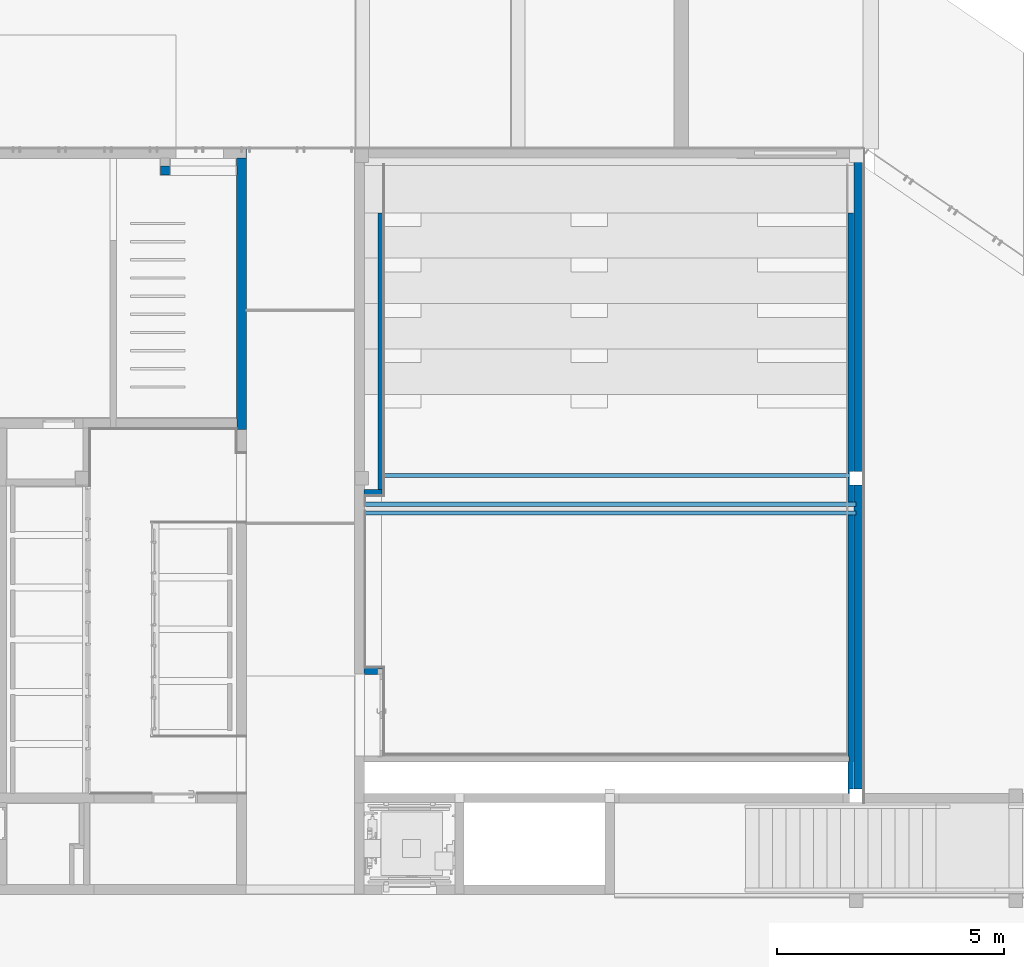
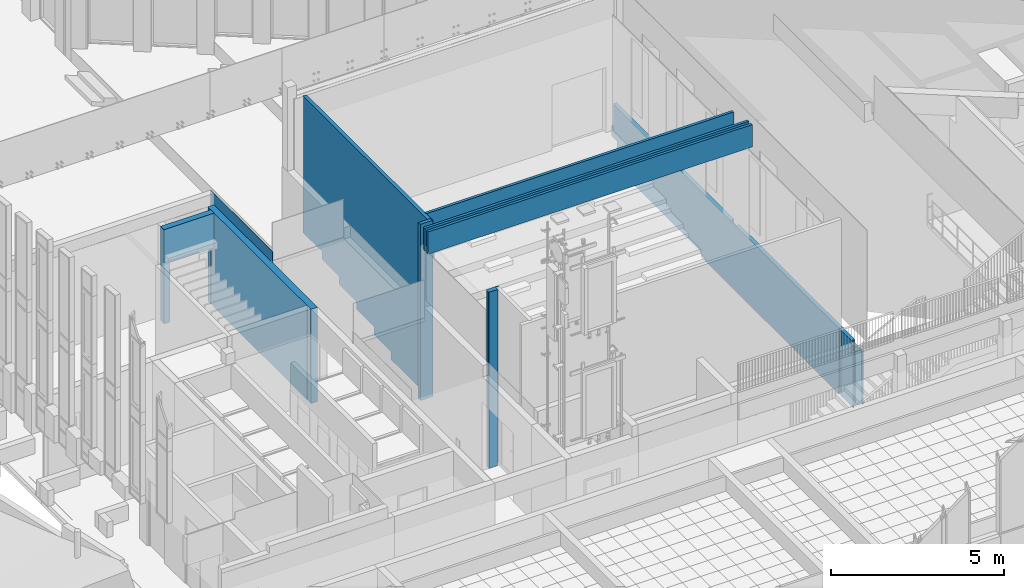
# One storey, part 122 of 246: 9 walls, 2 openings.
"""IFC2X3 building model written with IfcOpenShell, lengths in millimetres."""

from ifc_helpers import new_model, entity, si_unit, converted_unit, derived_unit, money_unit, direction, frame, origin_with_axes, place, context, subcontext, project, spatial, faceted_brep, material, material_list, type_object, element, save


model = new_model("IFC2X3")

# Units and contexts
model_context = context("Model", 3, precision=0.01, world=origin_with_axes(), true_north=direction((0.0, 1.0)))
body_context = subcontext(model_context, "Body", "Model", "MODEL_VIEW")
ifc_project = project(units=[si_unit("LENGTHUNIT", "METRE", prefix="MILLI"), si_unit("AREAUNIT", "SQUARE_METRE"), si_unit("VOLUMEUNIT", "CUBIC_METRE"), converted_unit("PLANEANGLEUNIT", "DEGREE", entity("IfcPlaneAngleMeasure", 0.0174532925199), si_unit("PLANEANGLEUNIT", "RADIAN"), dimensions=[0, 0, 0, 0, 0, 0, 0]), si_unit("SOLIDANGLEUNIT", "STERADIAN"), money_unit("EUR"), converted_unit("TIMEUNIT", "Year", entity("IfcTimeMeasure", 31556926.0), si_unit("TIMEUNIT", "SECOND"), dimensions=[0, 0, 1, 0, 0, 0, 0]), si_unit("MASSUNIT", "GRAM", prefix="KILO"), si_unit("THERMODYNAMICTEMPERATUREUNIT", "DEGREE_CELSIUS"), si_unit("LUMINOUSINTENSITYUNIT", "LUMEN"), si_unit("ENERGYUNIT", "JOULE", prefix="MEGA"), derived_unit("THERMALCONDUCTANCEUNIT", [(si_unit("POWERUNIT", "WATT"), 1), (si_unit("LENGTHUNIT", "METRE"), -1), (si_unit("THERMODYNAMICTEMPERATUREUNIT", "KELVIN"), -1)]), derived_unit("SPECIFICHEATCAPACITYUNIT", [(si_unit("ENERGYUNIT", "JOULE"), 1), (si_unit("MASSUNIT", "GRAM", prefix="KILO"), -1), (si_unit("THERMODYNAMICTEMPERATUREUNIT", "KELVIN"), -1)]), derived_unit("MASSDENSITYUNIT", [(si_unit("MASSUNIT", "GRAM", prefix="KILO"), 1), (si_unit("VOLUMEUNIT", "CUBIC_METRE"), -1)])], contexts=[model_context])

# Site, building, storey
site_placement = place(None, origin_with_axes())
site = spatial("IfcSite", under=ifc_project, at=site_placement, Name="L.Koidula tn 11b", CompositionType="ELEMENT")
building_placement = place(site_placement, origin_with_axes())
building = spatial("IfcBuilding", under=site, at=building_placement, Name="Rakvere Riigigümnaasium", CompositionType="ELEMENT")
storey_placement = place(building_placement, origin_with_axes())
storey = spatial("IfcBuildingStorey", under=building, at=storey_placement, Name="1.korrus 0,00", CompositionType="ELEMENT", Elevation=0.0)

# Wall, opening
ifc_material_1 = material(Name="Betoon element / plaat")
wall_type_1 = type_object("IfcWallType", Name="SS-01 200", PredefinedType="NOTDEFINED")
wall_1_placement = place(storey_placement, frame((44599.9999911, 31130.4555111, 0.0), z_axis=(0.0, 0.0, 1.0), x_axis=(-1.0, 0.0, 0.0)))
wall_1 = element("IfcWall", 1, at=wall_1_placement, inside=storey, type_object=wall_type_1, material=ifc_material_1, Name="Sisesein", context=body_context, shape_type="Brep", body=[
    faceted_brep([(200.0, 200.0, 2100.0), (200.0, 0.0, 2100.0), (200.0, 0.0, 3325.0), (200.0, 200.0, 3325.0), (1680.0, 0.0, 2100.0), (1680.0, 200.0, 2100.0), (1680.0, 0.0, 0.0), (1880.0, 0.0, 0.0), (1880.0, 0.0, 3325.0), (1880.0, 200.0, 3325.0), (1880.0, 200.0, 0.0), (1680.0, 200.0, 0.0)], [[[0, 1, 2, 3]], [[4, 1, 0, 5]], [[4, 6, 7, 8, 2, 1]], [[9, 3, 2, 8]], [[5, 0, 3, 9, 10, 11]], [[6, 4, 5, 11]], [[6, 11, 10, 7]], [[10, 9, 8, 7]]]),
])
opening_1_placement = place(wall_1_placement, frame((940.0, 0.0, 0.0), z_axis=(0.0, 0.0, 1.0), x_axis=(1.0, 0.0, 0.0)))
element("IfcOpeningElement", 2, at=opening_1_placement, cuts=wall_1, Name="ava", context=body_context, shape_type="Brep", body=[
    faceted_brep([(-740.0, -400.0, 0.0), (-740.0, -400.0, 2100.0), (-740.0, 200.0, 2100.0), (-740.0, 200.0, 0.0), (740.0, -400.0, 0.0), (740.0, -400.0, 2100.0), (740.0, 200.0, 2100.0), (740.0, 200.0, 0.0)], [[[0, 1, 2, 3]], [[0, 4, 5, 1]], [[1, 5, 6, 2]], [[3, 2, 6, 7]], [[4, 0, 3, 7]], [[5, 4, 7, 6]]]),
])

# Walls
ifc_material_2 = material(Name="Krohv")
ifc_material_3 = material(Name="mineraalvill+karkass")
ifc_material_4 = material(Name="Kipsplaat")
ifc_material_list_1 = material_list([ifc_material_2, ifc_material_1, ifc_material_3, ifc_material_4])
wall_type_2 = type_object("IfcWallType", Name="SS-02-1 345", PredefinedType="NOTDEFINED")
wall_2_placement = place(storey_placement, frame((58180.0348101, 31500.4555152, 0.0), z_axis=(0.0, 0.0, 1.0), x_axis=(0.0, -1.0, 0.0)))
element("IfcWall", 3, at=wall_2_placement, inside=storey, type_object=wall_type_2, material=ifc_material_list_1, Name="Sisesein", context=body_context, shape_type="Brep", body=[
    faceted_brep([(0.0, 0.0, 0.0), (-2.72625300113e-06, 0.0, 1880.0), (-1.34463995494e-05, 10.0000030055, 1880.0), (2.6552378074e-06, 10.0000069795, 1304.82181515), (0.0, 10.0000069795, 0.0), (14189.9999927, 0.0, 1880.0), (299.999997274, 0.000358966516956, 1880.0), (14189.9999927, 0.0, 0.0), (14189.9999927, 10.000000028, 1880.0), (14189.9999927, 10.0000001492, 0.0)], [[[0, 1, 2, 3, 4]], [[5, 6, 1, 0, 7]], [[5, 8, 2, 1, 6]], [[3, 2, 8, 9, 4]], [[0, 4, 9, 7]], [[9, 8, 5, 7]]]),
    faceted_brep([(7099.999968, 7.17945667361e-05, 0.0), (300.000020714, 7.17945667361e-05, 0.0), (300.000020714, 7.17945667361e-05, 949.821815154), (2.07142676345e-05, 7.17945667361e-05, 949.821815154), (0.0, 0.0, 1304.82181515), (200.0, 0.0, 1304.82181515), (200.0, 7.17945667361e-05, 1394.82181515), (300.000020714, 7.17945667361e-05, 1394.82181515), (300.000020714, 7.17945667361e-05, 1880.0), (7099.999968, 7.17945667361e-05, 1880.0), (7099.999968, -200.0, 0.0), (300.000020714, -200.0, 0.0), (300.000020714, -200.000025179, 949.821815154), (2.07142676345e-05, -200.0, 949.821815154), (0.0, -200.0, 1304.82181515), (200.0, -200.0, 1304.82181515), (200.0, -200.0, 1394.82181515), (300.000020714, -200.000025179, 1394.82181515), (300.000020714, -200.000025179, 1880.0), (7099.999968, -200.000025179, 1880.0)], [[[0, 1, 2, 3, 4, 5, 6, 7, 8, 9]], [[10, 11, 1, 0]], [[12, 2, 1, 11]], [[12, 13, 3, 2]], [[4, 3, 13, 14]], [[4, 14, 15, 5]], [[15, 16, 6, 5]], [[17, 7, 6, 16]], [[17, 18, 8, 7]], [[18, 19, 9, 8]], [[10, 0, 9, 19]], [[13, 12, 11, 10, 19, 18, 17, 16, 15, 14]]]),
    faceted_brep([(7399.999968, 7.17945667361e-05, 0.0), (7399.999968, 7.17945667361e-05, 1880.0), (14090.0000057, 7.17945667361e-05, 1880.0), (14090.0000057, 7.17945667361e-05, 0.0), (7399.999968, -200.000025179, 1880.0), (7399.999968, -200.0, 0.0), (14090.0000057, -200.000025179, 1880.0), (14090.0000057, -200.0, 0.0)], [[[0, 1, 2, 3]], [[4, 1, 0, 5]], [[1, 4, 6, 2]], [[3, 2, 6, 7]], [[5, 0, 3, 7]], [[4, 5, 7, 6]]]),
    faceted_brep([(1404.99998655, -210.0, 1394.9938315), (404.99998655, -210.0, 1394.9938315), (310.0, -210.0, 1394.9938315), (310.0, -210.0, 2315.0), (7099.999968, -210.0, 2315.0), (7099.999968, -210.0, 0.0), (5404.99998655, -210.0, 0.0), (5404.99998655, -210.0, 278.993831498), (4404.99998655, -210.0, 278.993831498), (4404.99998655, -210.0, 557.993831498), (3404.99998655, -210.0, 557.993831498), (3404.99998655, -210.0, 836.993831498), (2404.99998655, -210.0, 836.993831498), (2404.99998655, -210.0, 1115.9938315), (1404.99998655, -210.0, 1115.9938315), (1404.99998655, -310.0, 1394.9938315), (404.99998655, -310.0, 1394.9938315), (310.0, -310.0, 1394.9938315), (310.0, -310.0, 2315.0), (7399.999968, -210.0, 2315.0), (7399.999968, -299.999928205, 2315.0), (7099.999968, -299.999928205, 2315.0), (14190.0000057, -310.0, 2315.0), (14190.0000057, -299.999928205, 2315.0), (14090.0000057, -299.999928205, 2315.0), (14090.0000057, -210.0, 2315.0), (7099.999968, -299.999928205, 0.0), (5404.99998655, -310.0, 0.0), (7399.999968, -299.999928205, 0.0), (7399.999968, -210.0, 0.0), (14090.0000057, -210.0, 0.0), (14090.0000057, -299.999928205, 0.0), (14190.0000057, -299.999928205, 0.0), (14190.0000057, -310.0, 0.0), (5404.99998655, -310.0, 278.993831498), (4404.99998655, -310.0, 278.993831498), (4404.99998655, -310.0, 557.993831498), (3404.99998655, -310.0, 557.993831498), (3404.99998655, -310.0, 836.993831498), (2404.99998655, -310.0, 836.993831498), (2404.99998655, -310.0, 1115.9938315), (1404.99998655, -310.0, 1115.9938315)], [[[0, 1, 2, 3, 4, 5, 6, 7, 8, 9, 10, 11, 12, 13, 14]], [[1, 0, 15, 16]], [[17, 2, 1, 16]], [[2, 17, 18, 3]], [[19, 20, 21, 4, 3, 18, 22, 23, 24, 25]], [[26, 5, 4, 21]], [[27, 6, 5, 26, 28, 29, 30, 31, 32, 33]], [[7, 6, 27, 34]], [[8, 7, 34, 35]], [[9, 8, 35, 36]], [[10, 9, 36, 37]], [[11, 10, 37, 38]], [[12, 11, 38, 39]], [[13, 12, 39, 40]], [[14, 13, 40, 41]], [[0, 14, 41, 15]], [[34, 27, 33, 22, 18, 17, 16, 15, 41, 40, 39, 38, 37, 36, 35]], [[28, 20, 19, 29]], [[26, 21, 20, 28]], [[33, 32, 23, 22]], [[31, 24, 23, 32]], [[31, 30, 25, 24]], [[30, 29, 19, 25]]]),
    faceted_brep([(1404.99998655, -310.0, 1394.9938315), (404.99998655, -310.0, 1394.9938315), (335.0, -310.0, 1394.9938315), (335.0, -310.0, 2315.0), (13373.0000057, -310.0, 2315.0), (13373.0000057, -310.0, 0.0), (5404.99998655, -310.0, 0.0), (5404.99998655, -310.0, 278.993831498), (4404.99998655, -310.0, 278.993831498), (4404.99998655, -310.0, 557.993831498), (3404.99998655, -310.0, 557.993831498), (3404.99998655, -310.0, 836.993831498), (2404.99998655, -310.0, 836.993831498), (2404.99998655, -310.0, 1115.9938315), (1404.99998655, -310.0, 1115.9938315), (1404.99998655, -335.0, 1394.9938315), (404.99998655, -335.0, 1394.9938315), (335.0, -335.0, 1394.9938315), (335.0, -335.0, 2315.0), (13373.0000057, -335.0, 2315.0), (13373.0000057, -335.0, 0.0), (5404.99998655, -335.0, 0.0), (5404.99998655, -335.0, 278.993831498), (4404.99998655, -335.0, 278.993831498), (4404.99998655, -335.0, 557.993831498), (3404.99998655, -335.0, 557.993831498), (3404.99998655, -335.0, 836.993831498), (2404.99998655, -335.0, 836.993831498), (2404.99998655, -335.0, 1115.9938315), (1404.99998655, -335.0, 1115.9938315)], [[[0, 1, 2, 3, 4, 5, 6, 7, 8, 9, 10, 11, 12, 13, 14]], [[1, 0, 15, 16]], [[17, 2, 1, 16]], [[2, 17, 18, 3]], [[19, 4, 3, 18]], [[4, 19, 20, 5]], [[21, 6, 5, 20]], [[7, 6, 21, 22]], [[8, 7, 22, 23]], [[9, 8, 23, 24]], [[10, 9, 24, 25]], [[11, 10, 25, 26]], [[12, 11, 26, 27]], [[13, 12, 27, 28]], [[14, 13, 28, 29]], [[0, 14, 29, 15]], [[22, 21, 20, 19, 18, 17, 16, 15, 29, 28, 27, 26, 25, 24, 23]]]),
    faceted_brep([(14190.0000057, -310.0, 0.0), (13481.0000057, -310.0, 0.0), (13481.0000057, -310.0, 2315.0), (14190.0000057, -310.0, 2315.0), (14190.0000057, -335.0, 0.0), (13481.0000057, -335.0, 0.0), (13481.0000057, -335.0, 2315.0), (14190.0000057, -335.0, 2315.0)], [[[0, 1, 2, 3]], [[4, 5, 1, 0]], [[6, 2, 1, 5]], [[3, 2, 6, 7]], [[7, 4, 0, 3]], [[7, 6, 5, 4]]]),
])
ifc_material_list_2 = material_list([ifc_material_4, ifc_material_4, ifc_material_3, ifc_material_4, ifc_material_4])
wall_type_3 = type_object("IfcWallType", Name="SS-07 155", PredefinedType="NOTDEFINED")
wall_3_placement = place(storey_placement, frame((47494.9999935, 19930.4555093, 0.0), z_axis=(0.0, 0.0, 1.0), x_axis=(-1.0, 0.0, 0.0)))
element("IfcWall", 4, at=wall_3_placement, inside=storey, type_object=wall_type_3, material=ifc_material_list_2, Name="Sisesein", context=body_context, shape_type="Brep", body=[
    faceted_brep([(284.999999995, -15.0, 0.0), (284.999999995, -15.0, 6215.0), (0.0, -15.0, 6215.0), (0.0, -15.0, 0.0), (284.999999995, 0.0, 0.0), (284.999999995, 0.0, 6215.0), (0.0, 0.0, 6215.0), (0.0, 0.0, 0.0)], [[[0, 1, 2, 3]], [[4, 5, 1, 0]], [[5, 6, 2, 1]], [[3, 2, 6, 7]], [[3, 7, 4, 0]], [[7, 6, 5, 4]]]),
    faceted_brep([(284.999999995, -30.0, 6215.0), (0.0, -30.0, 6215.0), (0.0, -30.0, 0.0), (284.999999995, -30.0, 0.0), (0.0, -15.0, 6215.0), (284.999999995, -15.0, 6215.0), (0.0, -15.0, 0.0), (284.999999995, -15.0, 0.0)], [[[0, 1, 2, 3]], [[4, 1, 0, 5]], [[1, 4, 6, 2]], [[6, 7, 3, 2]], [[5, 0, 3, 7]], [[4, 5, 7, 6]]]),
    faceted_brep([(294.999999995, -125.0, 6215.0), (0.0, -125.0, 6215.0), (0.0, -125.0, 0.0), (294.999999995, -125.0, 0.0), (0.0, -30.0, 6215.0), (294.999999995, -30.0, 6215.0), (0.0, -30.0, 0.0), (294.999999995, -30.0, 0.0)], [[[0, 1, 2, 3]], [[4, 1, 0, 5]], [[1, 4, 6, 2]], [[6, 7, 3, 2]], [[5, 0, 3, 7]], [[4, 5, 7, 6]]]),
    faceted_brep([(284.999999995, -140.0, 6215.0), (-108.0, -140.0, 6215.0), (-108.0, -140.0, 0.0), (284.999999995, -140.0, 0.0), (-108.0, -125.0, 6215.0), (284.999999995, -125.0, 6215.0), (-108.0, -125.0, 0.0), (284.999999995, -125.0, 0.0)], [[[0, 1, 2, 3]], [[4, 1, 0, 5]], [[1, 4, 6, 2]], [[6, 7, 3, 2]], [[5, 0, 3, 7]], [[4, 5, 7, 6]]]),
    faceted_brep([(284.999999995, -155.0, 6215.0), (-121.0, -155.0, 6215.0), (-121.0, -155.0, 0.0), (284.999999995, -155.0, 0.0), (-121.0, -140.0, 6215.0), (284.999999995, -140.0, 6215.0), (-121.0, -140.0, 0.0), (284.999999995, -140.0, 0.0)], [[[0, 1, 2, 3]], [[4, 1, 0, 5]], [[1, 4, 6, 2]], [[6, 7, 3, 2]], [[5, 0, 3, 7]], [[4, 5, 7, 6]]]),
])

# Wall, opening
ifc_material_list_3 = material_list([ifc_material_3, ifc_material_4, ifc_material_4])
wall_type_4 = type_object("IfcWallType", Name="SS-06 121", PredefinedType="NOTDEFINED")
wall_4_placement = place(storey_placement, frame((47624.9999935, 23880.4562197, 0.0), z_axis=(0.0, 0.0, 1.0), x_axis=(0.0, 1.0, 0.0)))
wall_4 = element("IfcWall", 5, at=wall_4_placement, inside=storey, type_object=wall_type_4, material=ifc_material_list_3, Name="Sisesein", context=body_context, shape_type="Brep", body=[
    faceted_brep([(6214.99930899, 26.000000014, 1394.9938315), (7214.99930899, 26.000000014, 1394.9938315), (7309.99929554, 26.0000001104, 1394.9938315), (7309.99929554, 26.0000004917, 6215.0), (121.0, 26.000000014, 6215.0), (121.0, 26.0000000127, 5671.5), (476.39926834, 26.0, 5671.5), (476.39926834, 26.0, 5605.5), (121.0, 26.0000000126, 5605.5), (121.0, 26.0, 0.0), (2214.99930899, 26.0, 0.0), (2214.99930899, 26.000000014, 278.993831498), (3214.99930899, 26.000000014, 278.993831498), (3214.99930899, 26.000000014, 557.993831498), (4214.99930899, 26.000000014, 557.993831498), (4214.99930899, 26.000000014, 836.993831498), (5214.99930899, 26.000000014, 836.993831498), (5214.99930899, 26.000000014, 1115.9938315), (6214.99930899, 26.000000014, 1115.9938315), (6214.99930899, 121.0, 1394.9938315), (7214.99930899, 121.0, 1394.9938315), (7309.99929554, 121.0, 1394.9938315), (7309.99929554, 121.0, 6215.0), (121.0, 121.0, 6215.0), (121.0, 121.0, 0.0), (121.0, 45.0, 5605.5), (121.0, 45.0, 5671.5), (476.39926834, 45.0, 5671.5), (476.39926834, 45.0, 5605.5), (2214.99930899, 121.0, 0.0), (2214.99930899, 121.0, 278.993831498), (3214.99930899, 121.0, 278.993831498), (3214.99930899, 121.0, 557.993831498), (4214.99930899, 121.0, 557.993831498), (4214.99930899, 121.0, 836.993831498), (5214.99930899, 121.0, 836.993831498), (5214.99930899, 121.0, 1115.9938315), (6214.99930899, 121.0, 1115.9938315)], [[[0, 1, 2, 3, 4, 5, 6, 7, 8, 9, 10, 11, 12, 13, 14, 15, 16, 17, 18]], [[1, 0, 19, 20]], [[21, 2, 1, 20]], [[2, 21, 22, 3]], [[3, 22, 23, 4]], [[5, 4, 23, 24, 9, 8, 25, 26]], [[26, 27, 6, 5]], [[28, 7, 6, 27]], [[8, 7, 28, 25]], [[29, 10, 9, 24]], [[11, 10, 29, 30]], [[12, 11, 30, 31]], [[13, 12, 31, 32]], [[14, 13, 32, 33]], [[15, 14, 33, 34]], [[16, 15, 34, 35]], [[17, 16, 35, 36]], [[18, 17, 36, 37]], [[0, 18, 37, 19]], [[30, 29, 24, 23, 22, 21, 20, 19, 37, 36, 35, 34, 33, 32, 31]], [[25, 28, 27, 26]]]),
    faceted_brep([(6214.99930899, 13.0, 1394.9938315), (7214.99930899, 13.0, 1394.9938315), (7309.99929554, 13.0, 1394.9938315), (7309.99929554, 13.0, 6215.0), (463.89926834, 13.0, 6215.0), (463.89926834, 13.0, 5671.5), (476.39926834, 13.0, 5671.5), (476.39926834, 13.0, 5605.5), (463.89926834, 13.0, 5605.5), (463.89926834, 13.0, 5580.0), (384.89926834, 13.0, 5580.0), (384.89926834, 13.0, 5592.5), (26.0, 13.0, 5592.5), (26.0, 13.0, 0.0), (2214.99930899, 13.0, 0.0), (2214.99930899, 13.0, 278.993831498), (3214.99930899, 13.0, 278.993831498), (3214.99930899, 13.0, 557.993831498), (4214.99930899, 13.0, 557.993831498), (4214.99930899, 13.0, 836.993831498), (5214.99930899, 13.0, 836.993831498), (5214.99930899, 13.0, 1115.9938315), (6214.99930899, 13.0, 1115.9938315), (6214.99930899, 26.000000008, 1394.9938315), (7214.99930899, 26.000000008, 1394.9938315), (7309.99929554, 26.0000001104, 1394.9938315), (7309.99929554, 26.0000004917, 6215.0), (26.0, 26.000000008, 6215.0), (26.0, 13.0, 6215.0), (384.89926834, 13.0, 6215.0), (384.89926834, 15.0, 6215.0), (463.89926834, 15.0, 6215.0), (463.89926834, 15.0, 5671.5), (26.0, 26.0000000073, 5671.5), (476.39926834, 26.0000004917, 5671.5), (384.89926834, 15.0, 5671.5), (384.89926834, 13.0, 5671.5), (26.0, 13.0, 5671.5), (476.39926834, 26.0000004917, 5605.5), (463.89926834, 15.0, 5605.5), (384.89926834, 26.0000004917, 5605.5), (384.89926834, 15.0, 5605.5), (463.89926834, 15.0, 5580.0), (384.89926834, 15.0, 5580.0), (384.89926834, 15.0, 5592.5), (26.0, 26.0000000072, 5592.5), (384.89926834, 26.0000004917, 5592.5), (26.0, 26.0, 0.0), (2214.99930899, 26.0, 0.0), (2214.99930899, 26.000000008, 278.993831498), (3214.99930899, 26.000000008, 278.993831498), (3214.99930899, 26.000000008, 557.993831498), (4214.99930899, 26.000000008, 557.993831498), (4214.99930899, 26.000000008, 836.993831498), (5214.99930899, 26.000000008, 836.993831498), (5214.99930899, 26.000000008, 1115.9938315), (6214.99930899, 26.000000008, 1115.9938315)], [[[0, 1, 2, 3, 4, 5, 6, 7, 8, 9, 10, 11, 12, 13, 14, 15, 16, 17, 18, 19, 20, 21, 22]], [[1, 0, 23, 24]], [[25, 2, 1, 24]], [[2, 25, 26, 3]], [[3, 26, 27, 28, 29, 30, 31, 4]], [[5, 4, 31, 32]], [[33, 34, 6, 5, 32, 35, 36, 37]], [[38, 7, 6, 34]], [[39, 8, 7, 38, 40, 41]], [[9, 8, 39, 42]], [[43, 10, 9, 42]], [[43, 44, 11, 10]], [[45, 12, 11, 44, 46]], [[13, 12, 45, 47]], [[48, 14, 13, 47]], [[15, 14, 48, 49]], [[16, 15, 49, 50]], [[17, 16, 50, 51]], [[18, 17, 51, 52]], [[19, 18, 52, 53]], [[20, 19, 53, 54]], [[21, 20, 54, 55]], [[22, 21, 55, 56]], [[0, 22, 56, 23]], [[49, 48, 47, 45, 46, 40, 38, 34, 33, 27, 26, 25, 24, 23, 56, 55, 54, 53, 52, 51, 50]], [[37, 28, 27, 33]], [[36, 29, 28, 37]], [[35, 30, 29, 36]], [[32, 31, 30, 35]], [[44, 41, 40, 46]], [[42, 39, 41, 44, 43]]]),
    faceted_brep([(6214.99930899, 0.0, 1394.9938315), (7214.99930899, 0.0, 1394.9938315), (7284.99929554, 0.0, 1394.9938315), (7284.99929554, 0.0, 6215.0), (476.39926834, 0.0, 6215.0), (476.39926834, 0.0, 5580.0), (13.0, 0.0, 5580.0), (13.0, 0.0, 0.0), (2214.99930899, 0.0, 0.0), (2214.99930899, 0.0, 278.993831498), (3214.99930899, 0.0, 278.993831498), (3214.99930899, 0.0, 557.993831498), (4214.99930899, 0.0, 557.993831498), (4214.99930899, 0.0, 836.993831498), (5214.99930899, 0.0, 836.993831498), (5214.99930899, 0.0, 1115.9938315), (6214.99930899, 0.0, 1115.9938315), (6214.99930899, 13.0, 1394.9938315), (7214.99930899, 13.0, 1394.9938315), (7284.99929554, 13.0, 1394.9938315), (7284.99929554, 13.0, 6215.0), (476.39926834, 13.0, 6215.0), (476.39926834, 13.0, 5580.0), (13.0, 13.0, 5580.0), (13.0, 13.0, 0.0), (2214.99930899, 13.0, 0.0), (2214.99930899, 13.0, 278.993831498), (3214.99930899, 13.0, 278.993831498), (3214.99930899, 13.0, 557.993831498), (4214.99930899, 13.0, 557.993831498), (4214.99930899, 13.0, 836.993831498), (5214.99930899, 13.0, 836.993831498), (5214.99930899, 13.0, 1115.9938315), (6214.99930899, 13.0, 1115.9938315)], [[[0, 1, 2, 3, 4, 5, 6, 7, 8, 9, 10, 11, 12, 13, 14, 15, 16]], [[1, 0, 17, 18]], [[19, 2, 1, 18]], [[2, 19, 20, 3]], [[3, 20, 21, 4]], [[5, 4, 21, 22]], [[22, 23, 6, 5]], [[7, 6, 23, 24]], [[25, 8, 7, 24]], [[9, 8, 25, 26]], [[10, 9, 26, 27]], [[11, 10, 27, 28]], [[12, 11, 28, 29]], [[13, 12, 29, 30]], [[14, 13, 30, 31]], [[15, 14, 31, 32]], [[16, 15, 32, 33]], [[0, 16, 33, 17]], [[26, 25, 24, 23, 22, 21, 20, 19, 18, 17, 33, 32, 31, 30, 29, 28, 27]]]),
    faceted_brep([(384.89926834, 13.0, 6215.0), (384.89926834, 0.0, 6215.0), (384.89926834, 0.0, 5671.5), (384.89926834, 13.0, 5671.5), (13.0, 0.0, 6215.0), (13.0, 13.0, 6215.0), (13.0, 0.0, 5671.5), (13.0, 13.0, 5671.5)], [[[0, 1, 2, 3]], [[4, 1, 0, 5]], [[1, 4, 6, 2]], [[3, 2, 6, 7]], [[5, 0, 3, 7]], [[4, 5, 7, 6]]]),
])
opening_2_placement = place(wall_4_placement, frame((6749.99929317, 0.0, -2100.0), z_axis=(0.0, 0.0, 1.0), x_axis=(1.0, 0.0, 0.0)))
element("IfcOpeningElement", 6, at=opening_2_placement, cuts=wall_4, Name="ava", context=body_context, shape_type="Brep", body=[
    faceted_brep([(-561.0, -121.0, 0.0), (-561.0, -121.0, 690.0), (-561.0, 242.0, 690.0), (-561.0, 242.0, 0.0), (561.0, -121.0, 0.0), (561.0, -121.0, 690.0), (561.0, 242.0, 690.0), (561.0, 242.0, 0.0)], [[[0, 1, 2, 3]], [[0, 4, 5, 1]], [[1, 5, 6, 2]], [[3, 2, 6, 7]], [[4, 0, 3, 7]], [[5, 4, 7, 6]]]),
])

# Walls
ifc_material_list_4 = material_list([ifc_material_4, ifc_material_4, ifc_material_3])
wall_5_placement = place(storey_placement, frame((47624.9999935, 23880.4562197, 0.0), z_axis=(0.0, 0.0, 1.0), x_axis=(-1.0, 0.0, 0.0)))
element("IfcWall", 7, at=wall_5_placement, inside=storey, type_object=wall_type_4, material=ifc_material_list_4, Name="Sisesein", context=body_context, shape_type="Brep", body=[
    faceted_brep([(415.0, -13.0, 6215.0), (0.0, -13.0, 6215.0), (0.0, -13.0, 5671.5), (45.0, -13.0, 5671.5), (45.0, -13.0, 5580.0), (0.0, -13.0, 5580.0), (0.0, -13.0, 0.0), (415.0, -13.0, 0.0), (0.0, 0.0, 6215.0), (415.0, 0.0, 6215.0), (0.0, 0.0, 5671.5), (45.0, 0.0, 5671.5), (45.0, 0.0, 5580.0), (0.0, 0.0, 5580.0), (0.0, 0.0, 0.0), (415.0, 0.0, 0.0)], [[[0, 1, 2, 3, 4, 5, 6, 7]], [[8, 1, 0, 9]], [[1, 8, 10, 2]], [[3, 2, 10, 11]], [[12, 4, 3, 11]], [[13, 5, 4, 12]], [[5, 13, 14, 6]], [[14, 15, 7, 6]], [[9, 0, 7, 15]], [[8, 9, 15, 14, 13, 12, 11, 10]]]),
    faceted_brep([(415.0, -26.0, 6215.0), (13.0, -26.0, 6215.0), (13.0, -26.0, 5671.5), (45.0, -26.0, 5671.5), (45.0, -26.0, 5592.5), (13.0, -26.0, 5592.5), (13.0, -26.0, 0.0), (415.0, -26.0, 0.0), (13.0, -13.0, 6215.0), (415.0, -13.0, 6215.0), (13.0, -13.0, 5671.5), (45.0, -13.0, 5671.5), (45.0, -13.0, 5592.5), (13.0, -13.0, 5592.5), (13.0, -13.0, 0.0), (415.0, -13.0, 0.0)], [[[0, 1, 2, 3, 4, 5, 6, 7]], [[8, 1, 0, 9]], [[1, 8, 10, 2]], [[3, 2, 10, 11]], [[12, 4, 3, 11]], [[13, 5, 4, 12]], [[5, 13, 14, 6]], [[14, 15, 7, 6]], [[9, 0, 7, 15]], [[8, 9, 15, 14, 13, 12, 11, 10]]]),
    faceted_brep([(425.0, -121.0, 6215.0), (26.0, -121.0, 6215.0), (26.0, -121.0, 5671.5), (45.0, -121.0, 5671.5), (45.0, -121.0, 5605.5), (26.0, -121.0, 5605.5), (26.0, -121.0, 0.0), (425.0, -121.0, 0.0), (26.0, -26.0, 6215.0), (425.0, -26.0, 6215.0), (26.0, -26.0, 5671.5), (45.0, -26.0, 5671.5), (45.0, -26.0, 5605.5), (26.0, -26.0, 5605.5), (26.0, -26.0, 0.0), (425.0, -26.0, 0.0)], [[[0, 1, 2, 3, 4, 5, 6, 7]], [[8, 1, 0, 9]], [[1, 8, 10, 2]], [[3, 2, 10, 11]], [[4, 3, 11, 12]], [[13, 5, 4, 12]], [[5, 13, 14, 6]], [[14, 15, 7, 6]], [[9, 0, 7, 15]], [[8, 9, 15, 14, 13, 12, 11, 10]]]),
])
ifc_material_5 = material(Name="siseviimistlus-seinad")
ifc_material_list_5 = material_list([ifc_material_5, ifc_material_1, ifc_material_5])
wall_type_5 = type_object("IfcWallType", Name="SS-01-2 220", PredefinedType="NOTDEFINED")
wall_6_placement = place(storey_placement, frame((44599.9999911, 31500.4555111, 0.0), z_axis=(0.0, 0.0, 1.0), x_axis=(0.0, -1.0, 0.0)))
element("IfcWall", 8, at=wall_6_placement, inside=storey, type_object=wall_type_5, material=ifc_material_list_5, Name="Sisesein", context=body_context, shape_type="Brep", body=[
    faceted_brep([(3580.00021816, 0.000143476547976, 3720.0), (3580.00021816, 0.000143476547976, 3325.0), (3580.00021724, 10.0, 3325.0), (3580.00021724, 10.0, 3720.0), (0.0, 0.0, 3720.0), (0.0, 0.0, 0.0), (6170.00316413, 0.0, 0.0), (6170.00316413, 0.0, 3325.0), (6170.00316413, 10.0, 3325.0), (6170.00316413, 10.0, 0.0), (0.0, 10.0, 0.0), (0.0, 10.0, 3720.0)], [[[0, 1, 2, 3]], [[1, 0, 4, 5, 6, 7]], [[8, 2, 1, 7]], [[2, 8, 9, 10, 11, 3]], [[0, 3, 11, 4]], [[5, 4, 11, 10]], [[10, 9, 6, 5]], [[8, 7, 6, 9]]]),
    faceted_brep([(199.999917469, -200.0, 3325.0), (6170.00316413, -200.0, 3325.0), (6170.00316413, 0.0, 3325.0), (3580.00021816, 0.000143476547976, 3325.0), (199.999917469, 0.000143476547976, 3325.0), (200.0, -200.0, 0.0), (6170.00316413, -200.0, 0.0), (6170.00316413, 0.0, 0.0), (200.0, 0.0, 0.0)], [[[0, 1, 2, 3, 4]], [[1, 0, 5, 6]], [[2, 1, 6, 7]], [[3, 2, 7, 8, 4]], [[0, 4, 8, 5]], [[8, 7, 6, 5]]]),
    faceted_brep([(570.0, -210.0, 3325.0), (5940.0038348, -210.0, 3325.0), (5940.0038348, -200.0, 3325.0), (570.0, -200.0, 3325.0), (570.0, -210.0, 0.0), (5940.0038348, -210.0, 0.0), (5940.0038348, -200.0, 0.0), (570.0, -200.0, 0.0)], [[[0, 1, 2, 3]], [[1, 0, 4, 5]], [[2, 1, 5, 6]], [[2, 6, 7, 3]], [[0, 3, 7, 4]], [[5, 4, 7, 6]]]),
    faceted_brep([(6140.0038348, -210.0, 3325.0), (6140.0038348, -200.0, 3325.0), (6140.0038348, -200.0, 0.0), (6140.0038348, -210.0, 0.0), (6170.00316413, -200.0, 3325.0), (6170.00316413, -210.0, 3325.0), (6170.00316413, -200.0, 0.0), (6170.00316413, -210.0, 0.0)], [[[0, 1, 2, 3]], [[4, 1, 0, 5]], [[1, 4, 6, 2]], [[2, 6, 7, 3]], [[5, 0, 3, 7]], [[4, 5, 7, 6]]]),
    faceted_brep([(210.0, -210.0, 3325.0), (210.0, -200.0, 3325.0), (210.0, -200.0, 0.0), (210.0, -210.0, 0.0), (370.0, -200.0, 3325.0), (370.0, -210.0, 3325.0), (370.0, -200.0, 0.0), (370.0, -210.0, 0.0)], [[[0, 1, 2, 3]], [[4, 1, 0, 5]], [[1, 4, 6, 2]], [[2, 6, 7, 3]], [[5, 0, 3, 7]], [[4, 5, 7, 6]]]),
])
ifc_material_6 = material(Name="Karkass")
ifc_material_7 = material(Name="Kipsplaat-erikõva")
ifc_material_list_6 = material_list([ifc_material_6, ifc_material_7, ifc_material_7])
wall_type_6 = type_object("IfcWallType", Name="Karkassil karbik 92", PredefinedType="NOTDEFINED")
wall_7_placement = place(storey_placement, frame((58026.5792447, 24265.355488, 5580.0), z_axis=(0.0, 0.0, 1.0), x_axis=(-1.0, 0.0, 0.0)))
element("IfcWall", 9, at=wall_7_placement, inside=storey, type_object=wall_type_6, material=ifc_material_list_6, Name="Sisesein", context=body_context, shape_type="Brep", body=[
    faceted_brep([(146.544362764, 0.0, 635.0), (146.544362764, -66.0, 635.0), (10416.5792512, -66.0, 635.0), (10416.5792512, 0.0, 635.0), (146.544362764, -66.0, 0.0), (146.544362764, 0.0, 0.0), (181.544434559, -66.0, 0.0), (181.544434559, -66.0, 91.5), (10416.5792512, -66.0, 91.5), (10416.5792512, 0.0, 91.5), (181.544434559, 0.0, 91.5), (181.544434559, 0.0, 0.0)], [[[0, 1, 2, 3]], [[4, 1, 0, 5]], [[1, 4, 6, 7, 8, 2]], [[2, 8, 9, 3]], [[5, 0, 3, 9, 10, 11]], [[4, 5, 11, 6]], [[11, 10, 7, 6]], [[9, 8, 7, 10]]]),
    faceted_brep([(146.544362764, -66.0, 635.0), (146.544362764, -79.0, 635.0), (10416.5792512, -79.0, 635.0), (10416.5792512, -66.0, 635.0), (146.544362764, -79.0, 0.0), (146.544362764, -66.0, 0.0), (181.544434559, -79.0, 0.0), (181.544434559, -79.0, 25.5), (10416.5792512, -79.0, 25.5), (10416.5792512, -66.0, 25.5), (181.544434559, -66.0, 25.5), (181.544434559, -66.0, 0.0)], [[[0, 1, 2, 3]], [[4, 1, 0, 5]], [[1, 4, 6, 7, 8, 2]], [[2, 8, 9, 3]], [[5, 0, 3, 9, 10, 11]], [[4, 5, 11, 6]], [[11, 10, 7, 6]], [[9, 8, 7, 10]]]),
    faceted_brep([(146.544362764, -79.0, 635.0), (146.544362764, -91.5, 635.0), (10414.5792512, -91.5, 635.0), (10414.5792512, -79.0, 635.0), (146.544362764, -91.5, 0.0), (146.544362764, -79.0, 0.0), (181.544434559, -91.5, 0.0), (181.544434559, -91.5, 12.5), (10414.5792512, -91.5, 12.5), (10414.5792512, -79.0, 12.5), (181.544434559, -79.0, 12.5), (181.544434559, -79.0, 0.0)], [[[0, 1, 2, 3]], [[4, 1, 0, 5]], [[1, 4, 6, 7, 8, 2]], [[2, 8, 9, 3]], [[5, 0, 3, 9, 10, 11]], [[4, 5, 11, 6]], [[10, 7, 6, 11]], [[9, 8, 7, 10]]]),
])
ifc_material_list_7 = material_list([ifc_material_7, ifc_material_7, ifc_material_6])
wall_8_placement = place(storey_placement, frame((58026.5792447, 23535.3555432, 5425.0), z_axis=(0.0, 0.0, 1.0), x_axis=(-1.0, 0.0, 0.0)))
element("IfcWall", 10, at=wall_8_placement, inside=storey, type_object=wall_type_6, material=ifc_material_list_7, Name="Sisesein", context=body_context, shape_type="Brep", body=[
    faceted_brep([(10816.5792512, 91.5, 0.0), (10816.5792512, 79.0, 0.0), (0.0, 79.0, 0.0), (0.0, 91.5, 0.0), (10816.5792512, 91.5, 790.0), (10816.5792512, 79.0, 790.0), (0.0, 79.0, 790.0), (0.0, 91.5, 790.0)], [[[0, 1, 2, 3]], [[0, 4, 5, 1]], [[1, 5, 6, 2]], [[3, 2, 6, 7]], [[4, 0, 3, 7]], [[5, 4, 7, 6]]]),
    faceted_brep([(10816.5792512, 79.0, 0.0), (10816.5792512, 66.0, 0.0), (0.0, 66.0, 0.0), (0.0, 79.0, 0.0), (10816.5792512, 79.0, 790.0), (10816.5792512, 66.0, 790.0), (0.0, 66.0, 790.0), (0.0, 79.0, 790.0)], [[[0, 1, 2, 3]], [[0, 4, 5, 1]], [[1, 5, 6, 2]], [[3, 2, 6, 7]], [[4, 0, 3, 7]], [[5, 4, 7, 6]]]),
    faceted_brep([(10816.5792512, 66.0, 0.0), (10816.5792512, 0.0, 0.0), (0.0, 0.0, 0.0), (0.0, 66.0, 0.0), (10816.5792512, 66.0, 790.0), (10816.5792512, 0.0, 790.0), (0.0, 0.0, 790.0), (0.0, 66.0, 790.0)], [[[0, 1, 2, 3]], [[0, 4, 5, 1]], [[1, 5, 6, 2]], [[3, 2, 6, 7]], [[4, 0, 3, 7]], [[5, 4, 7, 6]]]),
])
wall_9_placement = place(storey_placement, frame((58026.5792447, 23635.3555432, 5425.0), z_axis=(0.0, 0.0, 1.0), x_axis=(-1.0, 0.0, 0.0)))
element("IfcWall", 11, at=wall_9_placement, inside=storey, type_object=wall_type_6, material=ifc_material_list_6, Name="Sisesein", context=body_context, shape_type="Brep", body=[
    faceted_brep([(0.0, -66.0, 790.0), (10816.5792512, -66.0, 790.0), (10816.5792512, 0.0, 790.0), (0.0, 0.0, 790.0), (0.0, -66.0, 0.0), (10816.5792512, -66.0, 0.0), (10816.5792512, 0.0, 0.0), (0.0, 0.0, 0.0)], [[[0, 1, 2, 3]], [[4, 5, 1, 0]], [[2, 1, 5, 6]], [[3, 2, 6, 7]], [[4, 0, 3, 7]], [[7, 6, 5, 4]]]),
    faceted_brep([(0.0, -79.0, 0.0), (10816.5792512, -79.0, 0.0), (10816.5792512, -79.0, 790.0), (0.0, -79.0, 790.0), (10446.5792512, -79.0, 167.5), (181.544434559, -79.0, 167.5), (181.544434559, -79.0, 246.5), (10446.5792512, -79.0, 246.5), (0.0, -66.0, 0.0), (10816.5792512, -66.0, 0.0), (10816.5792512, -66.0, 790.0), (0.0, -66.0, 790.0), (10446.5792512, -66.0, 167.5), (181.544434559, -66.0, 167.5), (181.544434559, -66.0, 246.5), (10446.5792512, -66.0, 246.5)], [[[0, 1, 2, 3], [4, 5, 6, 7]], [[8, 9, 1, 0]], [[10, 2, 1, 9]], [[3, 2, 10, 11]], [[0, 3, 11, 8]], [[5, 4, 12, 13]], [[6, 5, 13, 14]], [[7, 6, 14, 15]], [[12, 4, 7, 15]], [[11, 10, 9, 8], [12, 15, 14, 13]]]),
    faceted_brep([(0.0, -91.5, 0.0), (10816.5792512, -91.5, 0.0), (10816.5792512, -91.5, 790.0), (0.0, -91.5, 790.0), (10446.5792512, -91.5, 155.0), (181.544434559, -91.5, 155.0), (181.544434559, -91.5, 246.5), (10446.5792512, -91.5, 246.5), (0.0, -79.0, 0.0), (10816.5792512, -79.0, 0.0), (10816.5792512, -79.0, 790.0), (0.0, -79.0, 790.0), (10446.5792512, -79.0, 155.0), (181.544434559, -79.0, 155.0), (181.544434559, -79.0, 246.5), (10446.5792512, -79.0, 246.5)], [[[0, 1, 2, 3], [4, 5, 6, 7]], [[8, 9, 1, 0]], [[10, 2, 1, 9]], [[3, 2, 10, 11]], [[0, 3, 11, 8]], [[5, 4, 12, 13]], [[6, 5, 13, 14]], [[7, 6, 14, 15]], [[12, 4, 7, 15]], [[11, 10, 9, 8], [12, 15, 14, 13]]]),
])

save(model, "model.ifc")
